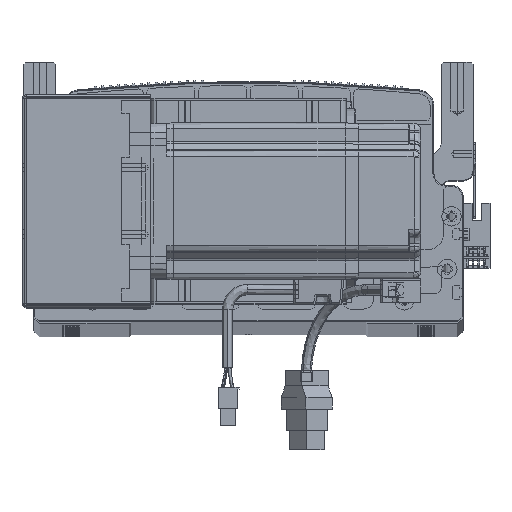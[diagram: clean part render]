
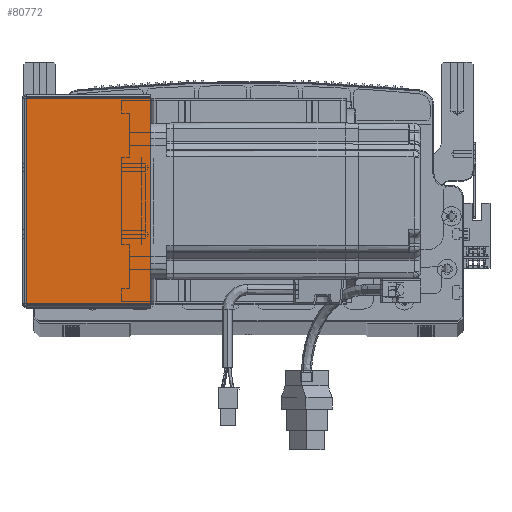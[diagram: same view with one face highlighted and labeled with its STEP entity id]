
A CAD part, top view. The second image highlights one B-rep face of the part: STEP entity #80772.
In plain terms, the highlighted planar face has unit normal (0, 0, 1) as drawn and (0, 0, -1) by its records, which use the part's own axes.
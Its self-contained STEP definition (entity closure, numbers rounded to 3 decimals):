
#4070 = CARTESIAN_POINT ( 'NONE',  ( 64.5, 105.293, -205.5 ) ) ;
#8282 = EDGE_CURVE ( 'NONE', #54345, #42644, #99532, .T. ) ;
#12415 = DIRECTION ( 'NONE',  ( 1., 0., 0. ) ) ;
#12695 = CARTESIAN_POINT ( 'NONE',  ( 64.5, 0.707, -205.5 ) ) ;
#13539 = VECTOR ( 'NONE', #91478, 1000. ) ;
#17271 = VECTOR ( 'NONE', #93475, 1000. ) ;
#22698 = LINE ( 'NONE', #52721, #89766 ) ;
#32130 = DIRECTION ( 'NONE',  ( 0., 0., 1. ) ) ;
#33195 = EDGE_CURVE ( 'NONE', #95696, #42644, #22698, .T. ) ;
#37515 = DIRECTION ( 'NONE',  ( 1., 0., 0. ) ) ;
#41196 = AXIS2_PLACEMENT_3D ( 'NONE', #63595, #32130, #95797 ) ;
#42644 = VERTEX_POINT ( 'NONE', #12695 ) ;
#50801 = CARTESIAN_POINT ( 'NONE',  ( 0.737, 105.293, -205.5 ) ) ;
#51106 = ORIENTED_EDGE ( 'NONE', *, *, #80725, .T. ) ;
#52556 = VERTEX_POINT ( 'NONE', #50801 ) ;
#52721 = CARTESIAN_POINT ( 'NONE',  ( 0., 0.707, -205.5 ) ) ;
#52828 = ORIENTED_EDGE ( 'NONE', *, *, #8282, .T. ) ;
#54345 = VERTEX_POINT ( 'NONE', #4070 ) ;
#60091 = VECTOR ( 'NONE', #37515, 1000. ) ;
#60275 = CARTESIAN_POINT ( 'NONE',  ( 0.737, 0.707, -205.5 ) ) ;
#62565 = CARTESIAN_POINT ( 'NONE',  ( 0., 105.293, -205.5 ) ) ;
#63595 = CARTESIAN_POINT ( 'NONE',  ( 0., 0., -205.5 ) ) ;
#64635 = PLANE ( 'NONE',  #41196 ) ;
#67511 = ORIENTED_EDGE ( 'NONE', *, *, #33195, .F. ) ;
#75097 = CARTESIAN_POINT ( 'NONE',  ( 0.737, 0., -205.5 ) ) ;
#77829 = FACE_OUTER_BOUND ( 'NONE', #93740, .T. ) ;
#79973 = EDGE_CURVE ( 'NONE', #52556, #95696, #90611, .T. ) ;
#80725 = EDGE_CURVE ( 'NONE', #52556, #54345, #84120, .T. ) ;
#80772 = ADVANCED_FACE ( 'NONE', ( #77829 ), #64635, .F. ) ;
#84120 = LINE ( 'NONE', #62565, #60091 ) ;
#89766 = VECTOR ( 'NONE', #12415, 1000. ) ;
#90611 = LINE ( 'NONE', #75097, #17271 ) ;
#91478 = DIRECTION ( 'NONE',  ( 0., -1., 0. ) ) ;
#93475 = DIRECTION ( 'NONE',  ( 0., -1., 0. ) ) ;
#93740 = EDGE_LOOP ( 'NONE', ( #97390, #51106, #52828, #67511 ) ) ;
#95696 = VERTEX_POINT ( 'NONE', #60275 ) ;
#95797 = DIRECTION ( 'NONE',  ( 1., 0., 0. ) ) ;
#97390 = ORIENTED_EDGE ( 'NONE', *, *, #79973, .F. ) ;
#99532 = LINE ( 'NONE', #99941, #13539 ) ;
#99941 = CARTESIAN_POINT ( 'NONE',  ( 64.5, 0., -205.5 ) ) ;
